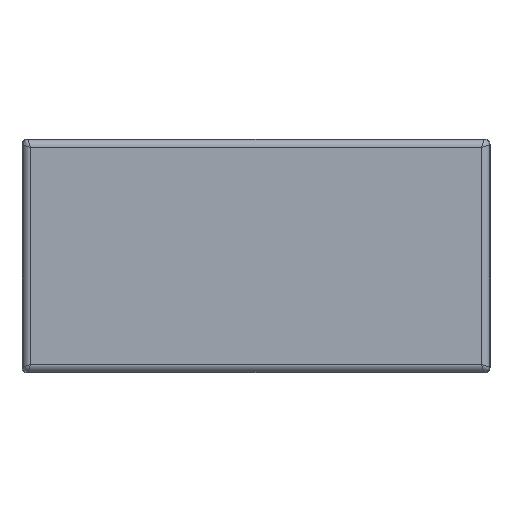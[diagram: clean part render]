
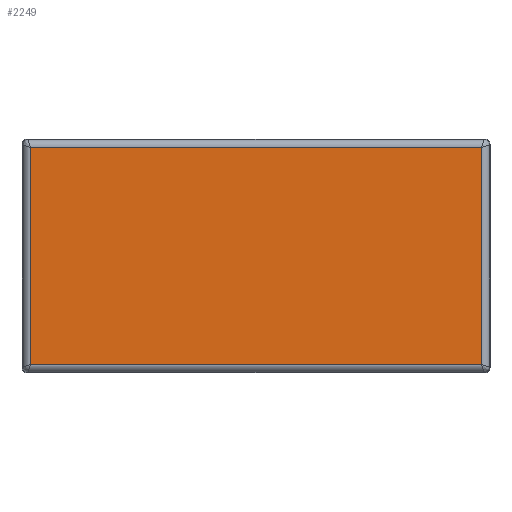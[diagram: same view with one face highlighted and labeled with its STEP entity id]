
A CAD part, top view. The second image highlights one B-rep face of the part: STEP entity #2249.
In plain terms, the highlighted planar face has unit normal (0, 0, 1).
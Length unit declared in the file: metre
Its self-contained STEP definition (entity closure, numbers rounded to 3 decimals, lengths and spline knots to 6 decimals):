
#137=LINE('',#3989,#260);
#138=LINE('',#3991,#261);
#139=LINE('',#3993,#262);
#140=LINE('',#3994,#263);
#260=VECTOR('',#2808,0.086754);
#261=VECTOR('',#2809,0.041754);
#262=VECTOR('',#2810,0.086754);
#263=VECTOR('',#2811,0.041754);
#563=FACE_OUTER_BOUND('',#709,.T.);
#709=EDGE_LOOP('',(#1694,#1695,#1696,#1697));
#1054=VERTEX_POINT('',#3987);
#1055=VERTEX_POINT('',#3988);
#1056=VERTEX_POINT('',#3990);
#1057=VERTEX_POINT('',#3992);
#1315=EDGE_CURVE('',#1054,#1055,#137,.F.);
#1316=EDGE_CURVE('',#1055,#1056,#138,.F.);
#1317=EDGE_CURVE('',#1056,#1057,#139,.F.);
#1318=EDGE_CURVE('',#1057,#1054,#140,.F.);
#1694=ORIENTED_EDGE('',*,*,#1315,.T.);
#1695=ORIENTED_EDGE('',*,*,#1316,.T.);
#1696=ORIENTED_EDGE('',*,*,#1317,.T.);
#1697=ORIENTED_EDGE('',*,*,#1318,.T.);
#2175=PLANE('',#2439);
#2249=ADVANCED_FACE('',(#563),#2175,.T.);
#2439=AXIS2_PLACEMENT_3D('',#3986,#2806,#2807);
#2806=DIRECTION('center_axis',(0.,0.,1.));
#2807=DIRECTION('ref_axis',(1.,0.,0.));
#2808=DIRECTION('',(1.,0.,0.));
#2809=DIRECTION('',(0.,1.,0.));
#2810=DIRECTION('',(-1.,0.,0.));
#2811=DIRECTION('',(0.,-1.,0.));
#3986=CARTESIAN_POINT('Origin',(0.,0.,0.005));
#3987=CARTESIAN_POINT('',(0.043377,0.020877,0.005));
#3988=CARTESIAN_POINT('',(-0.043377,0.020877,0.005));
#3989=CARTESIAN_POINT('',(-0.043377,0.020877,0.005));
#3990=CARTESIAN_POINT('',(-0.043377,-0.020877,0.005));
#3991=CARTESIAN_POINT('',(-0.043377,-0.020877,0.005));
#3992=CARTESIAN_POINT('',(0.043377,-0.020877,0.005));
#3993=CARTESIAN_POINT('',(0.043377,-0.020877,0.005));
#3994=CARTESIAN_POINT('',(0.043377,0.020877,0.005));
